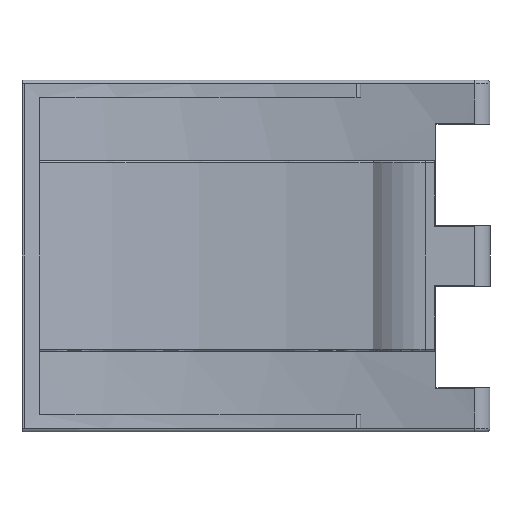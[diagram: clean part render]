
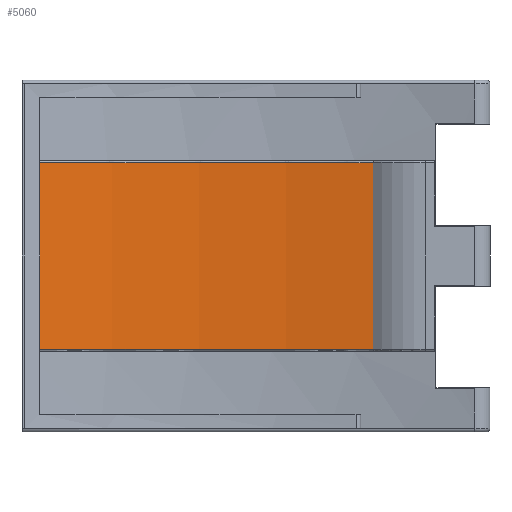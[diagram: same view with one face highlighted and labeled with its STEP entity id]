
A CAD part, front view. The second image highlights one B-rep face of the part: STEP entity #5060.
In plain terms, the highlighted cylindrical face has radius 1188.17 mm (diameter 2376.33 mm), a partial arc.
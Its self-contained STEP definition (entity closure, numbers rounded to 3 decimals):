
#2338 = DIRECTION ( 'NONE',  ( 1., 0., 0. ) ) ;
#2339 = DIRECTION ( 'NONE',  ( 0., 0., 1. ) ) ;
#2340 = CARTESIAN_POINT ( 'NONE',  ( -339.616, -1121.426, -138. ) ) ;
#2341 = AXIS2_PLACEMENT_3D ( 'NONE', #2340, #2339, #2338 ) ;
#2342 = CIRCLE ( 'NONE', #2341, 1188.167 ) ;
#2343 = CARTESIAN_POINT ( 'NONE',  ( -663.272, 21.81, 138. ) ) ;
#2344 = CARTESIAN_POINT ( 'NONE',  ( -663.272, 21.81, -138. ) ) ;
#2345 = DIRECTION ( 'NONE',  ( 0., 0., 1. ) ) ;
#2346 = VECTOR ( 'NONE', #2345, 1000. ) ;
#2347 = CARTESIAN_POINT ( 'NONE',  ( -663.272, 21.81, -140. ) ) ;
#2348 = LINE ( 'NONE', #2347, #2346 ) ;
#2349 = DIRECTION ( 'NONE',  ( 1., 0., 0. ) ) ;
#2350 = DIRECTION ( 'NONE',  ( 0., 0., 1. ) ) ;
#2351 = CARTESIAN_POINT ( 'NONE',  ( -339.616, -1121.426, -140. ) ) ;
#2352 = AXIS2_PLACEMENT_3D ( 'NONE', #2351, #2350, #2349 ) ;
#2353 = CYLINDRICAL_SURFACE ( 'NONE', #2352, 1188.167 ) ;
#2354 = FACE_OUTER_BOUND ( 'NONE', #5061, .T. ) ;
#2370 = CARTESIAN_POINT ( 'NONE',  ( -150.47, 51.589, -138. ) ) ;
#2371 = DIRECTION ( 'NONE',  ( 0., 0., 1. ) ) ;
#2372 = VECTOR ( 'NONE', #2371, 1000. ) ;
#2373 = CARTESIAN_POINT ( 'NONE',  ( -150.47, 51.589, -140. ) ) ;
#2374 = LINE ( 'NONE', #2373, #2372 ) ;
#2397 = DIRECTION ( 'NONE',  ( 1., 0., 0. ) ) ;
#2398 = DIRECTION ( 'NONE',  ( 0., 0., -1. ) ) ;
#2399 = CARTESIAN_POINT ( 'NONE',  ( -339.616, -1121.426, 138. ) ) ;
#2400 = AXIS2_PLACEMENT_3D ( 'NONE', #2399, #2398, #2397 ) ;
#2401 = CIRCLE ( 'NONE', #2400, 1188.167 ) ;
#2432 = CARTESIAN_POINT ( 'NONE',  ( -150.47, 51.589, 138. ) ) ;
#5060 = ADVANCED_FACE ( 'NONE', ( #2354 ), #2353, .F. ) ;
#5061 = EDGE_LOOP ( 'NONE', ( #5062, #5066, #5068, #5069 ) ) ;
#5062 = ORIENTED_EDGE ( 'NONE', *, *, #5063, .F. ) ;
#5063 = EDGE_CURVE ( 'NONE', #5064, #5065, #2348, .T. ) ;
#5064 = VERTEX_POINT ( 'NONE', #2344 ) ;
#5065 = VERTEX_POINT ( 'NONE', #2343 ) ;
#5066 = ORIENTED_EDGE ( 'NONE', *, *, #5067, .F. ) ;
#5067 = EDGE_CURVE ( 'NONE', #5082, #5064, #2342, .T. ) ;
#5068 = ORIENTED_EDGE ( 'NONE', *, *, #5081, .T. ) ;
#5069 = ORIENTED_EDGE ( 'NONE', *, *, #5070, .F. ) ;
#5070 = EDGE_CURVE ( 'NONE', #5065, #5083, #2401, .T. ) ;
#5081 = EDGE_CURVE ( 'NONE', #5082, #5083, #2374, .T. ) ;
#5082 = VERTEX_POINT ( 'NONE', #2370 ) ;
#5083 = VERTEX_POINT ( 'NONE', #2432 ) ;
